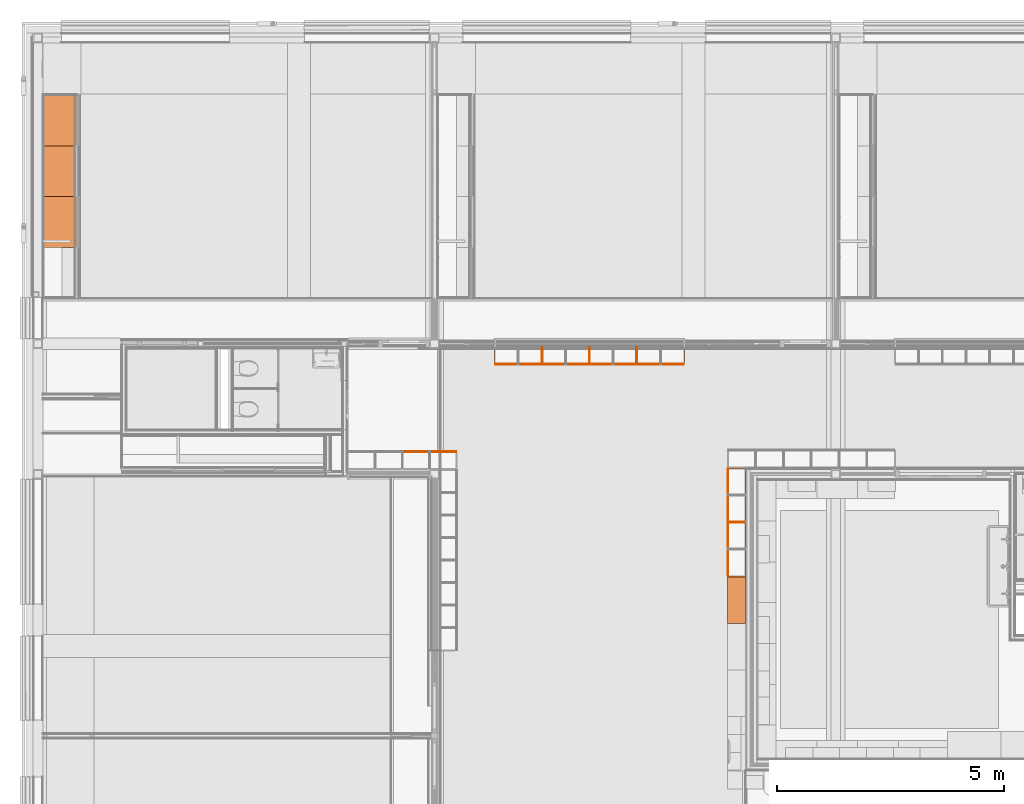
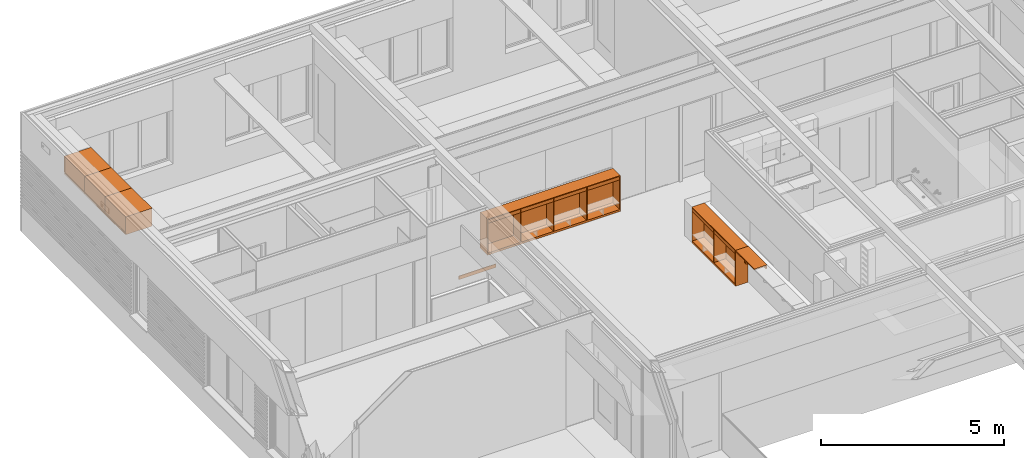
# One storey, part 133 of 137: 17 proxies.
"""IFC2X3 building model written with IfcOpenShell, lengths in millimetres."""

import ifcopenshell
import ifcopenshell.guid

model = None  # the IFC model being written
_history = None  # IfcOwnerHistory: only IFC2X3 demands one
_inside = {}  # id of a spatial element -> (the spatial element, [elements in it])
_under = {}  # id of a project, library or spatial element -> (it, [spatial elements below it])
_declared = {}  # id of a project -> (the project, [libraries it declares])
_typed = {}  # id of a type object -> (the type object, [elements of that type])
_made_of = {}  # id of a material, layer set ... -> (it, [elements and type objects made of it])


def new_model(schema):
    """Start an empty IFC model of exactly this schema.

    Asked for "IFC4X3", IfcOpenShell would pick the latest addendum, in which some entities
    have other attributes; the version numbers below select the first issue.
    IFC2X3 requires an IfcOwnerHistory on every rooted entity: one is made here for all.
    """
    global model, _history
    if schema == "IFC4X3":
        model = ifcopenshell.file(schema_version=(4, 3, 0, 0))
    else:
        model = ifcopenshell.file(schema=schema)
    _inside.clear()
    _under.clear()
    _declared.clear()
    _typed.clear()
    _made_of.clear()
    _history = None
    if model.schema == "IFC2X3":
        org = make("IfcOrganization", Name="unknown")
        user = make(
            "IfcPersonAndOrganization",
            ThePerson=make("IfcPerson", FamilyName="unknown"),
            TheOrganization=org,
        )
        app = make(
            "IfcApplication",
            ApplicationDeveloper=org,
            Version="unknown",
            ApplicationFullName="unknown",
            ApplicationIdentifier="unknown",
        )
        _history = make(
            "IfcOwnerHistory",
            OwningUser=user,
            OwningApplication=app,
            ChangeAction="ADDED",
            CreationDate=0,
        )
    return model


def make(cls, **values):
    """One entity of the class cls with the attributes given. An attribute that is None is left unset."""
    return model.create_entity(
        cls, **{name: value for name, value in values.items() if value is not None}
    )


def entity(cls, *values):
    """Any entity or typed value of the class cls, its attributes in the order of the schema. None: left unset."""
    e = model.create_entity(cls)
    for i, value in enumerate(values):
        if value is not None:
            e[i] = value
    return e


def rooted(cls, **values):
    """An entity with a GlobalId (a new one), such as an element, a storey or a relation."""
    return make(cls, GlobalId=ifcopenshell.guid.new(), OwnerHistory=_history, **values)


def si_unit(unit_type, name, prefix=None):
    """IfcSIUnit, for example si_unit("LENGTHUNIT", "METRE", prefix="MILLI")."""
    return make("IfcSIUnit", UnitType=unit_type, Prefix=prefix, Name=name)


def converted_unit(unit_type, name, factor, base, dimensions=None, offset=None):
    """IfcConversionBasedUnit, such as the inch: factor (a typed value) times the base unit."""
    return make(
        "IfcConversionBasedUnit"
        if offset is None
        else "IfcConversionBasedUnitWithOffset",
        ConversionOffset=offset,
        Dimensions=None
        if dimensions is None
        else entity("IfcDimensionalExponents", *dimensions),
        UnitType=unit_type,
        Name=name,
        ConversionFactor=make(
            "IfcMeasureWithUnit", ValueComponent=factor, UnitComponent=base
        ),
    )


def derived_unit(unit_type, elements):
    """IfcDerivedUnit: a product of units, each with its exponent."""
    return make(
        "IfcDerivedUnit",
        Elements=[
            make("IfcDerivedUnitElement", Unit=unit, Exponent=power)
            for unit, power in elements
        ],
        UnitType=unit_type,
    )


def money_unit(currency):
    """IfcMonetaryUnit."""
    return make("IfcMonetaryUnit", Currency=currency)


def assignment(units):
    """IfcUnitAssignment: the units of a project."""
    return None if units is None else make("IfcUnitAssignment", Units=units)


def point(xyz):
    """IfcCartesianPoint."""
    return None if xyz is None else make("IfcCartesianPoint", Coordinates=xyz)


def direction(xyz):
    """IfcDirection."""
    return None if xyz is None else make("IfcDirection", DirectionRatios=xyz)


def frame(location, z_axis=None, x_axis=None):
    """IfcAxis2Placement3D, a coordinate frame: its origin and axes. An axis left out is left unset."""
    return make(
        "IfcAxis2Placement3D",
        Location=point(location),
        Axis=direction(z_axis),
        RefDirection=direction(x_axis),
    )


def origin_with_axes():
    """The frame at (0, 0, 0) with the z axis (0, 0, 1) and the x axis (1, 0, 0) written out."""
    return frame((0.0, 0.0, 0.0), z_axis=(0.0, 0.0, 1.0), x_axis=(1.0, 0.0, 0.0))


def place(relative_to, where):
    """IfcLocalPlacement: puts the frame where relative to a parent placement (None: the world)."""
    return make(
        "IfcLocalPlacement", PlacementRelTo=relative_to, RelativePlacement=where
    )


def context(
    kind, dimensions, precision=None, world=None, true_north=None, identifier=None
):
    """IfcGeometricRepresentationContext, for example the 3D "Model" context."""
    return make(
        "IfcGeometricRepresentationContext",
        ContextIdentifier=identifier,
        ContextType=kind,
        CoordinateSpaceDimension=dimensions,
        Precision=precision,
        WorldCoordinateSystem=world,
        TrueNorth=true_north,
    )


def subcontext(parent, identifier, kind, view, scale=None):
    """IfcGeometricRepresentationSubContext, for example "Body" below "Model"."""
    return make(
        "IfcGeometricRepresentationSubContext",
        ContextIdentifier=identifier,
        ContextType=kind,
        ParentContext=parent,
        TargetScale=scale,
        TargetView=view,
    )


def project(units=None, contexts=None):
    """IfcProject with its units and contexts."""
    return rooted(
        "IfcProject",
        Name="project",
        RepresentationContexts=contexts,
        UnitsInContext=assignment(units),
    )


def spatial(cls, under=None, at=None, **own):
    """A site, building, storey or space (cls), placed at a placement, below another one or the project."""
    s = rooted(cls, ObjectPlacement=at, **own)
    if under is not None:
        _under.setdefault(under.id(), (under, []))[1].append(s)
    return s


def faces_of(points, faces, orient=None, outer=None):
    """IfcFace entities. A face is a list of loops; a loop is a list of indices into points, from 0.

    orient and outer hold one flag for each loop. By default every Orientation is true, the
    first loop of a face is its IfcFaceOuterBound and the others are IfcFaceBound.
    """
    made = []
    for i, loops in enumerate(faces):
        bounds = []
        for j, loop in enumerate(loops):
            is_outer = j == 0 if outer is None else outer[i][j]
            bounds.append(
                make(
                    "IfcFaceOuterBound" if is_outer else "IfcFaceBound",
                    Bound=make("IfcPolyLoop", Polygon=[points[k] for k in loop]),
                    Orientation=True if orient is None else orient[i][j],
                )
            )
        made.append(make("IfcFace", Bounds=bounds))
    return made


def faceted_brep(points, faces, orient=None, outer=None, voids=None):
    """IfcFacetedBrep: a solid bounded by flat faces; with voids (closed shells), ...WithVoids."""
    shared = [point(p) for p in points]
    hull = make("IfcClosedShell", CfsFaces=faces_of(shared, faces, orient, outer))
    if voids is None:
        return make("IfcFacetedBrep", Outer=hull)
    return make(
        "IfcFacetedBrepWithVoids",
        Outer=hull,
        Voids=[
            make(cls, CfsFaces=faces_of(shared, fs, o, b)) for cls, fs, o, b in voids
        ],
    )


def shape(context_of_items, identifier, shape_type, items):
    """IfcShapeRepresentation: the items that make up one representation, for example the "Body"."""
    return make(
        "IfcShapeRepresentation",
        ContextOfItems=context_of_items,
        RepresentationIdentifier=identifier,
        RepresentationType=shape_type,
        Items=items,
    )


def material(Name=None, Category=None):
    """IfcMaterial."""
    return make("IfcMaterial", Name=Name, Category=Category)


def made_of(thing, what):
    """Note that an element or type object is made of a material, layer set ...; save() writes the relation."""
    if what is not None:
        _made_of.setdefault(what.id(), (what, []))[1].append(thing)
    return thing


def type_object(cls, material=None, **own):
    """A type object (cls), such as IfcWallType, which elements share."""
    return made_of(rooted(cls, **own), material)


def element(
    cls,
    number,
    at=None,
    inside=None,
    cuts=None,
    type_object=None,
    material=None,
    context=None,
    identifier="Body",
    shape_type=None,
    held_by="IfcProductDefinitionShape",
    body=None,
    shapes=None,
    **own,
):
    """One element of the class cls, such as IfcWall. Its Tag is "e" and its number.

    at: its placement. inside: the storey or other place that contains it. cuts: it is an
    opening in that element (IfcRelVoidsElement). A single representation is given by context,
    identifier, shape_type and body (its items); several are given by shapes. held_by: the class
    of the entity that holds the representations. save() writes the other relations.
    """
    e = rooted(cls, Tag="e%d" % number, ObjectPlacement=at, **own)
    if body is not None:
        shapes = [shape(context, identifier, shape_type, body)]
    if shapes is not None:
        e.Representation = make(held_by, Representations=shapes)
    if inside is not None:
        _inside.setdefault(inside.id(), (inside, []))[1].append(e)
    if cuts is not None:
        rooted(
            "IfcRelVoidsElement", RelatingBuildingElement=cuts, RelatedOpeningElement=e
        )
    if type_object is not None:
        _typed.setdefault(type_object.id(), (type_object, []))[1].append(e)
    return made_of(e, material)


def aggregate(whole, parts):
    """IfcRelAggregates: a whole, such as a stair, and the parts it consists of."""
    return rooted("IfcRelAggregates", RelatingObject=whole, RelatedObjects=parts)


def save(model, path):
    """Write the relations noted so far, then the file.

    IfcRelAggregates (storeys below a building ...), IfcRelContainedInSpatialStructure (elements
    in a storey), IfcRelDefinesByType, IfcRelAssociatesMaterial and IfcRelDeclares: one each for
    every whole, place, type object, material and project.
    """
    for whole, parts in _under.values():
        aggregate(whole, parts)
    for where, things in _inside.values():
        rooted(
            "IfcRelContainedInSpatialStructure",
            RelatedElements=things,
            RelatingStructure=where,
        )
    for kind, things in _typed.values():
        rooted("IfcRelDefinesByType", RelatedObjects=things, RelatingType=kind)
    for what, things in _made_of.values():
        rooted("IfcRelAssociatesMaterial", RelatedObjects=things, RelatingMaterial=what)
    for by, libraries in _declared.values():
        rooted("IfcRelDeclares", RelatingContext=by, RelatedDefinitions=libraries)
    model.write(path)


model = new_model("IFC2X3")

# Units and contexts
model_context = context("Model", 3, precision=0.01, world=origin_with_axes(), true_north=direction((0.0, 1.0)))
body_context = subcontext(model_context, "Body", "Model", "MODEL_VIEW")
ifc_project = project(units=[si_unit("LENGTHUNIT", "METRE", prefix="MILLI"), si_unit("AREAUNIT", "SQUARE_METRE"), si_unit("VOLUMEUNIT", "CUBIC_METRE"), converted_unit("PLANEANGLEUNIT", "DEGREE", entity("IfcPlaneAngleMeasure", 0.0174532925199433), si_unit("PLANEANGLEUNIT", "RADIAN"), dimensions=[0, 0, 0, 0, 0, 0, 0]), money_unit("EUR"), converted_unit("TIMEUNIT", "Year", entity("IfcTimeMeasure", 31556926.0), si_unit("TIMEUNIT", "SECOND"), dimensions=[0, 0, 1, 0, 0, 0, 0]), si_unit("MASSUNIT", "GRAM", prefix="KILO"), si_unit("THERMODYNAMICTEMPERATUREUNIT", "DEGREE_CELSIUS"), si_unit("LUMINOUSINTENSITYUNIT", "LUMEN"), si_unit("ENERGYUNIT", "JOULE", prefix="MEGA"), derived_unit("THERMALCONDUCTANCEUNIT", [(si_unit("POWERUNIT", "WATT"), 1), (si_unit("LENGTHUNIT", "METRE"), -1), (si_unit("THERMODYNAMICTEMPERATUREUNIT", "KELVIN"), -1)]), derived_unit("SPECIFICHEATCAPACITYUNIT", [(si_unit("ENERGYUNIT", "JOULE"), 1), (si_unit("MASSUNIT", "GRAM", prefix="KILO"), -1), (si_unit("THERMODYNAMICTEMPERATUREUNIT", "KELVIN"), -1)]), derived_unit("MASSDENSITYUNIT", [(si_unit("MASSUNIT", "GRAM", prefix="KILO"), 1), (si_unit("VOLUMEUNIT", "CUBIC_METRE"), -1)])], contexts=[model_context])

# Site, building, storey
site_placement = place(None, origin_with_axes())
site = spatial("IfcSite", under=ifc_project, at=site_placement, Name="Site", CompositionType="ELEMENT")
building_placement = place(site_placement, origin_with_axes())
building = spatial("IfcBuilding", under=site, at=building_placement, Name="Naam gebouw", CompositionType="ELEMENT")
storey_placement = place(building_placement, frame((0.0, 0.0, 3960.0), z_axis=(0.0, 0.0, 1.0), x_axis=(1.0, 0.0, 0.0)))
storey = spatial("IfcBuildingStorey", under=building, at=storey_placement, Name="1e verdieping", CompositionType="ELEMENT", Elevation=3960.0)

# Proxies
ifc_material = material(Name="Hout AFW")
building_element_proxy_type_1 = type_object("IfcBuildingElementProxyType", Name="Hout AFW 18", PredefinedType="NOTDEFINED")
proxy_1_placement = place(storey_placement, frame((9330.000000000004, 19950.00381393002, 1062.0), z_axis=(0.0, 0.0, 1.0), x_axis=(-1.0, 0.0, 0.0)))
element("IfcBuildingElementProxy", 1, at=proxy_1_placement, inside=storey, type_object=building_element_proxy_type_1, material=ifc_material, Name="i HOUT_Wand-x", context=body_context, shape_type="Brep", body=[
    faceted_brep([(0.0, 18.00000000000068, 0.0), (1174.999984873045, 18.00000000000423, 0.0), (1174.999984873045, 0.0, 0.0), (0.0, 0.0, 0.0), (0.0, 18.00000000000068, 117.9999999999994), (1174.999984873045, 18.00000000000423, 117.9999999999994), (1174.999984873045, 0.0, 117.9999999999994), (0.0, 0.0, 117.9999999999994)], [[[0, 1, 2, 3]], [[4, 5, 1, 0]], [[2, 1, 5, 6]], [[3, 2, 6, 7]], [[4, 0, 3, 7]], [[7, 6, 5, 4]]]),
])
proxy_2_placement = place(storey_placement, frame((15314.99945671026, 19564.9998112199, 1062.0), z_axis=(0.0, 0.0, 1.0), x_axis=(0.0, -1.0, 0.0)))
element("IfcBuildingElementProxy", 2, at=proxy_2_placement, inside=storey, type_object=building_element_proxy_type_1, material=ifc_material, Name="i HOUT_Wand-x", context=body_context, shape_type="Brep", body=[
    faceted_brep([(0.0, 18.00000000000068, 0.0), (1169.999999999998, 18.00000000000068, 0.0), (1169.999999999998, 0.0, 0.0), (0.0, 0.0, 0.0), (0.0, 18.00000000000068, 117.9999999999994), (1169.999999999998, 18.00000000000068, 117.9999999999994), (1169.999999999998, 0.0, 117.9999999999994), (0.0, 0.0, 117.9999999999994)], [[[0, 1, 2, 3]], [[4, 5, 1, 0]], [[2, 1, 5, 6]], [[3, 2, 6, 7]], [[4, 0, 3, 7]], [[7, 6, 5, 4]]]),
])
proxy_3_placement = place(storey_placement, frame((15314.99945671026, 18374.9998112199, 1062.0), z_axis=(0.0, 0.0, 1.0), x_axis=(0.0, -1.0, 0.0)))
element("IfcBuildingElementProxy", 3, at=proxy_3_placement, inside=storey, type_object=building_element_proxy_type_1, material=ifc_material, Name="i HOUT_Wand-x", context=body_context, shape_type="Brep", body=[
    faceted_brep([(0.0, 18.00000000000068, 0.0), (1170.000000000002, 18.00000000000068, 0.0), (1170.000000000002, 0.0, 0.0), (0.0, 0.0, 0.0), (0.0, 18.00000000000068, 117.9999999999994), (1170.000000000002, 18.00000000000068, 117.9999999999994), (1170.000000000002, 0.0, 117.9999999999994), (0.0, 0.0, 117.9999999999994)], [[[0, 1, 2, 3]], [[4, 5, 1, 0]], [[2, 1, 5, 6]], [[3, 2, 6, 7]], [[4, 0, 3, 7]], [[7, 6, 5, 4]]]),
])
proxy_4_placement = place(storey_placement, frame((10190.00000000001, 21862.47621406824, 1062.0), z_axis=(0.0, 0.0, 1.0), x_axis=(1.0, 0.0, 0.0)))
element("IfcBuildingElementProxy", 4, at=proxy_4_placement, inside=storey, type_object=building_element_proxy_type_1, material=ifc_material, Name="i HOUT_Wand-x", context=body_context, shape_type="Brep", body=[
    faceted_brep([(0.0, 18.00000000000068, 0.0), (1024.995906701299, 18.00000000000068, 0.0), (1024.995906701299, 0.0, 0.0), (0.0, 0.0, 0.0), (0.0, 18.00000000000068, 117.9999999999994), (1024.995906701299, 18.00000000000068, 117.9999999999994), (1024.995906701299, 0.0, 117.9999999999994), (0.0, 0.0, 117.9999999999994)], [[[0, 1, 2, 3]], [[4, 5, 1, 0]], [[2, 1, 5, 6]], [[3, 2, 6, 7]], [[4, 0, 3, 7]], [[7, 6, 5, 4]]]),
])
proxy_5_placement = place(storey_placement, frame((13324.97953350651, 21862.47621406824, 1062.0), z_axis=(0.0, 0.0, 1.0), x_axis=(1.0, 0.0, 0.0)))
element("IfcBuildingElementProxy", 5, at=proxy_5_placement, inside=storey, type_object=building_element_proxy_type_1, material=ifc_material, Name="i HOUT_Wand-x", context=body_context, shape_type="Brep", body=[
    faceted_brep([(0.0, 18.00000000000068, 0.0), (1025.020466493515, 18.00000000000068, 0.0), (1025.020466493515, 0.0, 0.0), (0.0, 0.0, 0.0), (0.0, 18.00000000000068, 117.9999999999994), (1025.020466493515, 18.00000000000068, 117.9999999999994), (1025.020466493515, 0.0, 117.9999999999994), (0.0, 0.0, 117.9999999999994)], [[[0, 1, 2, 3]], [[4, 5, 1, 0]], [[2, 1, 5, 6]], [[3, 2, 6, 7]], [[4, 0, 3, 7]], [[7, 6, 5, 4]]]),
])
for number, where, z_axis, x_axis, name in (
    (6, (11234.99590670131, 21862.47621406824, 1062.0), (0.0, 0.0, 1.0), (1.0, 0.0, 0.0), "i HOUT_Wand-x"),
    (7, (12279.98772010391, 21862.47621406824, 1062.0), (0.0, 0.0, 1.0), (1.0, 0.0, 0.0), "i HOUT_Wand-x"),
):
    element("IfcBuildingElementProxy", number, at=place(storey_placement, frame(where, z_axis=z_axis, x_axis=x_axis)), inside=storey, type_object=building_element_proxy_type_1, material=ifc_material, Name=name, context=body_context, shape_type="Brep", body=[
        faceted_brep([(0.0, 18.00000000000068, 0.0), (1024.991813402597, 18.00000000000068, 0.0), (1024.991813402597, 0.0, 0.0), (0.0, 0.0, 0.0), (0.0, 18.00000000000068, 117.9999999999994), (1024.991813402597, 18.00000000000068, 117.9999999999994), (1024.991813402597, 0.0, 117.9999999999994), (0.0, 0.0, 117.9999999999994)], [[[0, 1, 2, 3]], [[4, 5, 1, 0]], [[2, 1, 5, 6]], [[3, 2, 6, 7]], [[4, 0, 3, 7]], [[7, 6, 5, 4]]]),
    ])
building_element_proxy_type_2 = type_object("IfcBuildingElementProxyType", Name="Onderkast recht 26", PredefinedType="NOTDEFINED")
proxy_6_placement = place(storey_placement, frame((14370.00000000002, 22262.47621406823, 0.0), z_axis=(0.0, 0.0, 1.0), x_axis=(1.0, 0.0, 0.0)))
element("IfcBuildingElementProxy", 8, at=proxy_6_placement, inside=storey, type_object=building_element_proxy_type_2, Name="_Leeg", context=body_context, shape_type="Brep", body=[
    faceted_brep([(-20.0, -399.9999999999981, 50.0), (-20.0, -399.9999999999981, 70.0), (-4180.00000000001, -399.9999999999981, 70.0), (-4180.00000000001, -399.9999999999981, 50.0), (-20.0, 0.0, 50.0), (-20.0, 0.0, 70.0), (-4180.00000000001, 0.0, 70.0), (-4180.00000000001, 0.0, 50.0)], [[[0, 1, 2, 3]], [[4, 5, 1, 0]], [[1, 5, 6, 2]], [[3, 2, 6, 7]], [[0, 3, 7, 4]], [[7, 6, 5, 4]]]),
    faceted_brep([(-20.0, -399.9999999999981, 1180.0), (-20.0, -399.9999999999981, 1200.0), (-4180.00000000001, -399.9999999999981, 1200.0), (-4180.00000000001, -399.9999999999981, 1180.0), (-20.0, 0.0, 1180.0), (-20.0, 0.0, 1200.0), (-4180.00000000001, 0.0, 1200.0), (-4180.00000000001, 0.0, 1180.0)], [[[0, 1, 2, 3]], [[4, 5, 1, 0]], [[1, 5, 6, 2]], [[3, 2, 6, 7]], [[0, 3, 7, 4]], [[7, 6, 5, 4]]]),
    faceted_brep([(0.0, 0.0, 50.0), (0.0, 0.0, 1200.0), (0.0, -399.9999999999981, 1200.0), (0.0, -399.9999999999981, 50.0), (-20.0, 0.0, 50.0), (-20.0, 0.0, 1200.0), (-20.0, -399.9999999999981, 1200.0), (-20.0, -399.9999999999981, 50.0)], [[[0, 1, 2, 3]], [[4, 5, 1, 0]], [[1, 5, 6, 2]], [[3, 2, 6, 7]], [[0, 3, 7, 4]], [[7, 6, 5, 4]]]),
    faceted_brep([(-4200.00000000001, -399.9999999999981, 50.0), (-4200.00000000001, -399.9999999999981, 1200.0), (-4200.00000000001, 0.0, 1200.0), (-4200.00000000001, 0.0, 50.0), (-4180.00000000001, -399.9999999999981, 50.0), (-4180.00000000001, -399.9999999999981, 1200.0), (-4180.00000000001, 0.0, 1200.0), (-4180.00000000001, 0.0, 50.0)], [[[0, 1, 2, 3]], [[4, 5, 1, 0]], [[1, 5, 6, 2]], [[3, 2, 6, 7]], [[0, 3, 7, 4]], [[7, 6, 5, 4]]]),
    faceted_brep([(-4180.00000000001, -10.0, 70.0), (-4180.00000000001, -10.0, 1180.0), (-19.99999999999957, -10.0, 1180.0), (-19.99999999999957, -10.0, 70.0), (-4180.00000000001, -20.0, 70.0), (-4180.00000000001, -20.0, 1180.0), (-19.99999999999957, -20.0, 1180.0), (-19.99999999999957, -20.0, 70.0)], [[[0, 1, 2, 3]], [[4, 5, 1, 0]], [[1, 5, 6, 2]], [[3, 2, 6, 7]], [[0, 3, 7, 4]], [[7, 6, 5, 4]]]),
    faceted_brep([(0.0, -399.9999999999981, 0.0), (0.0, -399.9999999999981, 50.0), (-4200.00000000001, -399.9999999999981, 50.0), (-4200.00000000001, -399.9999999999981, 0.0), (0.0, 0.0, 0.0), (0.0, 0.0, 50.0), (-4200.00000000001, 0.0, 50.0), (-4200.00000000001, 0.0, 0.0)], [[[0, 1, 2, 3]], [[4, 5, 1, 0]], [[1, 5, 6, 2]], [[3, 2, 6, 7]], [[0, 3, 7, 4]], [[7, 6, 5, 4]]]),
])
proxy_7_placement = place(storey_placement, frame((15714.99945671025, 19584.9998112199, 0.0), z_axis=(0.0, 0.0, 1.0), x_axis=(0.0, -1.0, 0.0)))
element("IfcBuildingElementProxy", 9, at=proxy_7_placement, inside=storey, type_object=building_element_proxy_type_2, Name="_Leeg", context=body_context, shape_type="Brep", body=[
    faceted_brep([(20.0, -399.999999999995, 50.0), (2380.0, -399.999999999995, 50.0), (2380.0, -399.999999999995, 70.0), (20.0, -399.999999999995, 70.0), (20.0, 0.0, 50.0), (2380.0, 0.0, 50.0), (2380.0, 0.0, 70.0), (20.0, 0.0, 70.0)], [[[0, 1, 2, 3]], [[0, 4, 5, 1]], [[1, 5, 6, 2]], [[3, 2, 6, 7]], [[4, 0, 3, 7]], [[5, 4, 7, 6]]]),
    faceted_brep([(20.0, -399.999999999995, 1180.0), (2380.0, -399.999999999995, 1180.0), (2380.0, -399.999999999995, 1200.0), (20.0, -399.999999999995, 1200.0), (20.0, 0.0, 1180.0), (2380.0, 0.0, 1180.0), (2380.0, 0.0, 1200.0), (20.0, 0.0, 1200.0)], [[[0, 1, 2, 3]], [[0, 4, 5, 1]], [[1, 5, 6, 2]], [[3, 2, 6, 7]], [[4, 0, 3, 7]], [[5, 4, 7, 6]]]),
    faceted_brep([(0.0, 0.0, 50.0), (0.0, -399.999999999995, 50.0), (0.0, -399.999999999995, 1200.0), (0.0, 0.0, 1200.0), (20.0, 0.0, 50.0), (20.0, -399.999999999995, 50.0), (20.0, -399.999999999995, 1200.0), (20.0, 0.0, 1200.0)], [[[0, 1, 2, 3]], [[0, 4, 5, 1]], [[1, 5, 6, 2]], [[3, 2, 6, 7]], [[4, 0, 3, 7]], [[5, 4, 7, 6]]]),
    faceted_brep([(2400.0, -399.999999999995, 50.0), (2400.0, 0.0, 50.0), (2400.0, 0.0, 1200.0), (2400.0, -399.999999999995, 1200.0), (2380.0, -399.999999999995, 50.0), (2380.0, 0.0, 50.0), (2380.0, 0.0, 1200.0), (2380.0, -399.999999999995, 1200.0)], [[[0, 1, 2, 3]], [[0, 4, 5, 1]], [[1, 5, 6, 2]], [[3, 2, 6, 7]], [[4, 0, 3, 7]], [[5, 4, 7, 6]]]),
    faceted_brep([(2380.0, -10.0, 70.0), (20.00000000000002, -10.0, 70.0), (20.00000000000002, -10.0, 1180.0), (2380.0, -10.0, 1180.0), (2380.0, -20.0, 70.0), (20.00000000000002, -20.0, 70.0), (20.00000000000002, -20.0, 1180.0), (2380.0, -20.0, 1180.0)], [[[0, 1, 2, 3]], [[0, 4, 5, 1]], [[1, 5, 6, 2]], [[3, 2, 6, 7]], [[4, 0, 3, 7]], [[5, 4, 7, 6]]]),
    faceted_brep([(0.0, -399.999999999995, 0.0), (2400.0, -399.999999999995, 0.0), (2400.0, -399.999999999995, 50.0), (0.0, -399.999999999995, 50.0), (0.0, 0.0, 0.0), (2400.0, 0.0, 0.0), (2400.0, 0.0, 50.0), (0.0, 0.0, 50.0)], [[[0, 1, 2, 3]], [[0, 4, 5, 1]], [[1, 5, 6, 2]], [[3, 2, 6, 7]], [[4, 0, 3, 7]], [[5, 4, 7, 6]]]),
])
proxy_8_placement = place(storey_placement, frame((214.0000000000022, 26687.99970566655, 2600.0), z_axis=(0.0, 0.0, 1.0), x_axis=(0.0, 1.0, 0.0)))
element("IfcBuildingElementProxy", 10, at=proxy_8_placement, inside=storey, type_object=building_element_proxy_type_2, Name="_Leeg", context=body_context, shape_type="Brep", body=[
    faceted_brep([(-1102.000141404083, -1.999999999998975, 17.99999999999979), (-18.00000000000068, -1.999999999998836, 17.99999999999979), (-18.00000000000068, 0.0, 17.99999999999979), (-1102.000141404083, 0.0, 17.99999999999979), (-18.00000000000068, -1.999999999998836, 0.0), (-1102.000141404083, -1.999999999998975, 0.0), (-18.00000000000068, 0.0, 0.0), (-1102.000141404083, 0.0, 0.0)], [[[0, 1, 2, 3]], [[4, 1, 0, 5]], [[1, 4, 6, 2]], [[6, 7, 3, 2]], [[5, 0, 3, 7]], [[4, 5, 7, 6]]]),
    faceted_brep([(-1102.000141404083, -17.99999999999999, 69.99999999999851), (-18.00000000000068, -18.00000000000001, 69.99999999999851), (-18.00000000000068, -18.00000000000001, 581.9999999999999), (-1102.000141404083, -17.99999999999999, 581.9999999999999), (-18.00000000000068, -9.000000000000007, 69.99999999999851), (-1102.000141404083, -8.99999999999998, 69.99999999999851), (-18.00000000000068, -9.000000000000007, 581.9999999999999), (-1102.000141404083, -8.99999999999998, 581.9999999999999)], [[[0, 1, 2, 3]], [[4, 1, 0, 5]], [[1, 4, 6, 2]], [[6, 7, 3, 2]], [[5, 0, 3, 7]], [[4, 5, 7, 6]]]),
    faceted_brep([(-1102.000141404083, -827.0000000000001, 581.9999999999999), (-18.00000000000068, -827.0000000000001, 581.9999999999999), (-18.00000000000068, -827.0000000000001, 599.9999999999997), (-1102.000141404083, -827.0000000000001, 599.9999999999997), (-18.00000000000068, 0.0, 581.9999999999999), (-1102.000141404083, 0.0, 581.9999999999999), (-18.00000000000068, 0.0, 599.9999999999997), (-1102.000141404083, 0.0, 599.9999999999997)], [[[0, 1, 2, 3]], [[4, 1, 0, 5]], [[1, 4, 6, 2]], [[3, 2, 6, 7]], [[5, 0, 3, 7]], [[4, 5, 7, 6]]]),
    faceted_brep([(0.0, -1.999999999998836, 69.99999999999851), (0.0, -1.999999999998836, 0.0), (0.0, 0.0, 0.0), (0.0, 0.0, 599.9999999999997), (0.0, -827.0000000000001, 599.9999999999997), (0.0, -827.0000000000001, 0.0), (0.0, -21.99999999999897, 0.0), (0.0, -21.99999999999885, 69.99999999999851), (-18.00000000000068, -1.999999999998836, 69.99999999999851), (-18.00000000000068, -1.999999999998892, 0.0), (-18.00000000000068, 0.0, 0.0), (-18.00000000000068, 0.0, 599.9999999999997), (-18.00000000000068, -827.0000000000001, 599.9999999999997), (-18.00000000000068, -827.0000000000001, 0.0), (-18.00000000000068, -21.99999999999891, 0.0), (-18.00000000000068, -21.99999999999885, 69.99999999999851)], [[[0, 1, 2, 3, 4, 5, 6, 7]], [[1, 0, 8, 9]], [[1, 9, 10, 2]], [[2, 10, 11, 3]], [[4, 3, 11, 12]], [[13, 5, 4, 12]], [[14, 6, 5, 13]], [[7, 6, 14, 15]], [[0, 7, 15, 8]], [[15, 14, 13, 12, 11, 10, 9, 8]]]),
    faceted_brep([(-1102.000141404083, -1.999999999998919, 69.99999999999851), (-1102.000141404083, -1.999999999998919, 0.0), (-1102.000141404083, 0.0, 0.0), (-1102.000141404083, 0.0, 599.9999999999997), (-1102.000141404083, -827.0000000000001, 599.9999999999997), (-1102.000141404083, -827.0000000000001, 0.0), (-1102.000141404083, -21.99999999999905, 0.0), (-1102.000141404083, -21.99999999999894, 69.99999999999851), (-1120.000141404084, -1.999999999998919, 69.99999999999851), (-1120.000141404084, -1.999999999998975, 0.0), (-1120.000141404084, 0.0, 0.0), (-1120.000141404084, 0.0, 599.9999999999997), (-1120.000141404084, -827.0000000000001, 599.9999999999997), (-1120.000141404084, -827.0000000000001, 0.0), (-1120.000141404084, -21.9999999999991, 0.0), (-1120.000141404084, -21.99999999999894, 69.99999999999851)], [[[0, 1, 2, 3, 4, 5, 6, 7]], [[1, 0, 8, 9]], [[1, 9, 10, 2]], [[2, 10, 11, 3]], [[11, 12, 4, 3]], [[13, 5, 4, 12]], [[14, 6, 5, 13]], [[7, 6, 14, 15]], [[0, 7, 15, 8]], [[15, 14, 13, 12, 11, 10, 9, 8]]]),
    faceted_brep([(-18.00000000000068, -21.99999999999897, 0.0), (-18.00000000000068, -21.99999999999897, 17.99999999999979), (-18.00000000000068, -827.0000000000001, 17.99999999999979), (-18.00000000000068, -827.0000000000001, 0.0), (-1102.000141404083, -21.9999999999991, 17.99999999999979), (-1102.000141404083, -21.9999999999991, 0.0), (-1102.000141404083, -827.0000000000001, 17.99999999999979), (-1102.000141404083, -827.0000000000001, 0.0)], [[[0, 1, 2, 3]], [[4, 1, 0, 5]], [[1, 4, 6, 2]], [[7, 3, 2, 6]], [[5, 0, 3, 7]], [[4, 5, 7, 6]]]),
    faceted_brep([(-1.000000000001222, -827.0000000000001, 1.000000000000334), (-1.000000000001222, -845.0000000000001, 1.000000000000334), (-1119.000141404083, -844.9999999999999, 1.000000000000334), (-1119.000141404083, -827.0000000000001, 1.000000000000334), (-1.000000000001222, -827.0000000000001, 599.0000000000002), (-1.000000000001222, -845.0000000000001, 599.0000000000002), (-1119.000141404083, -844.9999999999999, 599.0000000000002), (-1119.000141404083, -827.0000000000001, 599.0000000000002)], [[[0, 1, 2, 3]], [[4, 5, 1, 0]], [[1, 5, 6, 2]], [[3, 2, 6, 7]], [[0, 3, 7, 4]], [[7, 6, 5, 4]]]),
])
proxy_9_placement = place(storey_placement, frame((214.0000000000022, 25567.99956426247, 2600.0), z_axis=(0.0, 0.0, 1.0), x_axis=(0.0, 1.0, 0.0)))
element("IfcBuildingElementProxy", 11, at=proxy_9_placement, inside=storey, type_object=building_element_proxy_type_2, Name="_Leeg", context=body_context, shape_type="Brep", body=[
    faceted_brep([(-1102.000141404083, -1.999999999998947, 17.99999999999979), (-18.00000000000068, -1.999999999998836, 17.99999999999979), (-18.00000000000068, 0.0, 17.99999999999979), (-1102.000141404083, 0.0, 17.99999999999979), (-18.00000000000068, -1.999999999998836, 0.0), (-1102.000141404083, -1.999999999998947, 0.0), (-18.00000000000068, 0.0, 0.0), (-1102.000141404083, 0.0, 0.0)], [[[0, 1, 2, 3]], [[4, 1, 0, 5]], [[1, 4, 6, 2]], [[6, 7, 3, 2]], [[5, 0, 3, 7]], [[4, 5, 7, 6]]]),
    faceted_brep([(-1102.000141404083, -17.99999999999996, 69.99999999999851), (-18.00000000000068, -18.00000000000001, 69.99999999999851), (-18.00000000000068, -18.00000000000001, 581.9999999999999), (-1102.000141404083, -17.99999999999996, 581.9999999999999), (-18.00000000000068, -9.000000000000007, 69.99999999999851), (-1102.000141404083, -8.999999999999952, 69.99999999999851), (-18.00000000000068, -9.000000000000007, 581.9999999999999), (-1102.000141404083, -8.999999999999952, 581.9999999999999)], [[[0, 1, 2, 3]], [[4, 1, 0, 5]], [[1, 4, 6, 2]], [[6, 7, 3, 2]], [[5, 0, 3, 7]], [[4, 5, 7, 6]]]),
    faceted_brep([(-1102.000141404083, -827.0, 581.9999999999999), (-18.00000000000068, -827.0, 581.9999999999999), (-18.00000000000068, -827.0, 599.9999999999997), (-1102.000141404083, -827.0, 599.9999999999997), (-18.00000000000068, 0.0, 581.9999999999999), (-1102.000141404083, 0.0, 581.9999999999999), (-18.00000000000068, 0.0, 599.9999999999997), (-1102.000141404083, 0.0, 599.9999999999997)], [[[0, 1, 2, 3]], [[4, 1, 0, 5]], [[1, 4, 6, 2]], [[3, 2, 6, 7]], [[5, 0, 3, 7]], [[4, 5, 7, 6]]]),
    faceted_brep([(0.0, -1.999999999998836, 69.99999999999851), (0.0, -1.999999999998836, 0.0), (0.0, 0.0, 0.0), (0.0, 0.0, 599.9999999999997), (0.0, -827.0, 599.9999999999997), (0.0, -827.0, 0.0), (0.0, -21.99999999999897, 0.0), (0.0, -21.99999999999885, 69.99999999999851), (-18.00000000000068, -1.999999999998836, 69.99999999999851), (-18.00000000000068, -1.999999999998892, 0.0), (-18.00000000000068, 0.0, 0.0), (-18.00000000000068, 0.0, 599.9999999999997), (-18.00000000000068, -827.0, 599.9999999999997), (-18.00000000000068, -827.0, 0.0), (-18.00000000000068, -21.99999999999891, 0.0), (-18.00000000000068, -21.99999999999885, 69.99999999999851)], [[[0, 1, 2, 3, 4, 5, 6, 7]], [[1, 0, 8, 9]], [[1, 9, 10, 2]], [[2, 10, 11, 3]], [[4, 3, 11, 12]], [[13, 5, 4, 12]], [[14, 6, 5, 13]], [[7, 6, 14, 15]], [[0, 7, 15, 8]], [[15, 14, 13, 12, 11, 10, 9, 8]]]),
    faceted_brep([(-1102.000141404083, -1.999999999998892, 69.99999999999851), (-1102.000141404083, -1.999999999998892, 0.0), (-1102.000141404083, 0.0, 0.0), (-1102.000141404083, 0.0, 599.9999999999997), (-1102.000141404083, -827.0, 599.9999999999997), (-1102.000141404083, -827.0, 0.0), (-1102.000141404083, -21.99999999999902, 0.0), (-1102.000141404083, -21.99999999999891, 69.99999999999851), (-1120.000141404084, -1.999999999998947, 69.99999999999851), (-1120.000141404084, -1.999999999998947, 0.0), (-1120.000141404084, 0.0, 0.0), (-1120.000141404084, 0.0, 599.9999999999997), (-1120.000141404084, -827.0, 599.9999999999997), (-1120.000141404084, -827.0, 0.0), (-1120.000141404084, -21.99999999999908, 0.0), (-1120.000141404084, -21.99999999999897, 69.99999999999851)], [[[0, 1, 2, 3, 4, 5, 6, 7]], [[1, 0, 8, 9]], [[1, 9, 10, 2]], [[2, 10, 11, 3]], [[11, 12, 4, 3]], [[13, 5, 4, 12]], [[14, 6, 5, 13]], [[7, 6, 14, 15]], [[0, 7, 15, 8]], [[15, 14, 13, 12, 11, 10, 9, 8]]]),
    faceted_brep([(-18.00000000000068, -21.99999999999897, 0.0), (-18.00000000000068, -21.99999999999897, 17.99999999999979), (-18.00000000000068, -827.0, 17.99999999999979), (-18.00000000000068, -827.0, 0.0), (-1102.000141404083, -21.99999999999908, 17.99999999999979), (-1102.000141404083, -21.99999999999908, 0.0), (-1102.000141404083, -827.0, 17.99999999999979), (-1102.000141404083, -827.0, 0.0)], [[[0, 1, 2, 3]], [[4, 1, 0, 5]], [[1, 4, 6, 2]], [[7, 3, 2, 6]], [[5, 0, 3, 7]], [[4, 5, 7, 6]]]),
    faceted_brep([(-1.000000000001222, -827.0, 1.000000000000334), (-1.000000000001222, -845.0, 1.000000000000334), (-1119.000141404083, -844.9999999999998, 1.000000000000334), (-1119.000141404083, -827.0, 1.000000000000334), (-1.000000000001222, -827.0, 599.0000000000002), (-1.000000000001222, -845.0, 599.0000000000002), (-1119.000141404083, -844.9999999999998, 599.0000000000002), (-1119.000141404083, -827.0, 599.0000000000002)], [[[0, 1, 2, 3]], [[4, 5, 1, 0]], [[1, 5, 6, 2]], [[3, 2, 6, 7]], [[0, 3, 7, 4]], [[7, 6, 5, 4]]]),
])
proxy_10_placement = place(storey_placement, frame((214.0000000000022, 27807.99984707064, 2600.0), z_axis=(0.0, 0.0, 1.0), x_axis=(0.0, 1.0, 0.0)))
element("IfcBuildingElementProxy", 12, at=proxy_10_placement, inside=storey, type_object=building_element_proxy_type_2, Name="_Leeg", context=body_context, shape_type="Brep", body=[
    faceted_brep([(-1102.000141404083, -1.999999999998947, 17.99999999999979), (-18.00000000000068, -1.999999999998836, 17.99999999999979), (-18.00000000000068, 0.0, 17.99999999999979), (-1102.000141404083, 0.0, 17.99999999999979), (-18.00000000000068, -1.999999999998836, 0.0), (-1102.000141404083, -1.999999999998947, 0.0), (-18.00000000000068, 0.0, 0.0), (-1102.000141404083, 0.0, 0.0)], [[[0, 1, 2, 3]], [[4, 1, 0, 5]], [[1, 4, 6, 2]], [[6, 7, 3, 2]], [[5, 0, 3, 7]], [[4, 5, 7, 6]]]),
    faceted_brep([(-1102.000141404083, -17.99999999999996, 69.99999999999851), (-18.00000000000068, -18.00000000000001, 69.99999999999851), (-18.00000000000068, -18.00000000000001, 581.9999999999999), (-1102.000141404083, -17.99999999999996, 581.9999999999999), (-18.00000000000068, -9.000000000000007, 69.99999999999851), (-1102.000141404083, -8.999999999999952, 69.99999999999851), (-18.00000000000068, -9.000000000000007, 581.9999999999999), (-1102.000141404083, -8.999999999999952, 581.9999999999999)], [[[0, 1, 2, 3]], [[4, 1, 0, 5]], [[1, 4, 6, 2]], [[6, 7, 3, 2]], [[5, 0, 3, 7]], [[4, 5, 7, 6]]]),
    faceted_brep([(-1102.000141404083, -827.0000000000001, 581.9999999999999), (-18.00000000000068, -826.9999999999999, 581.9999999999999), (-18.00000000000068, -826.9999999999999, 599.9999999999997), (-1102.000141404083, -827.0000000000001, 599.9999999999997), (-18.00000000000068, 0.0, 581.9999999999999), (-1102.000141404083, 0.0, 581.9999999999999), (-18.00000000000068, 0.0, 599.9999999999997), (-1102.000141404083, 0.0, 599.9999999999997)], [[[0, 1, 2, 3]], [[4, 1, 0, 5]], [[1, 4, 6, 2]], [[3, 2, 6, 7]], [[5, 0, 3, 7]], [[4, 5, 7, 6]]]),
    faceted_brep([(0.0, -1.999999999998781, 69.99999999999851), (0.0, -1.999999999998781, 0.0), (0.0, 0.0, 0.0), (0.0, 0.0, 599.9999999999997), (0.0, -826.9999999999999, 599.9999999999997), (0.0, -826.9999999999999, 0.0), (0.0, -21.9999999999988, 0.0), (0.0, -21.9999999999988, 69.99999999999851), (-18.00000000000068, -1.999999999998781, 69.99999999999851), (-18.00000000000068, -1.999999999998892, 0.0), (-18.00000000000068, 0.0, 0.0), (-18.00000000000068, 0.0, 599.9999999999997), (-18.00000000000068, -826.9999999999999, 599.9999999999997), (-18.00000000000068, -826.9999999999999, 0.0), (-18.00000000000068, -21.99999999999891, 0.0), (-18.00000000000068, -21.9999999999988, 69.99999999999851)], [[[0, 1, 2, 3, 4, 5, 6, 7]], [[1, 0, 8, 9]], [[1, 9, 10, 2]], [[2, 10, 11, 3]], [[4, 3, 11, 12]], [[13, 5, 4, 12]], [[14, 6, 5, 13]], [[7, 6, 14, 15]], [[0, 7, 15, 8]], [[15, 14, 13, 12, 11, 10, 9, 8]]]),
    faceted_brep([(-1102.000141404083, -1.999999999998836, 69.99999999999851), (-1102.000141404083, -1.999999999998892, 0.0), (-1102.000141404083, 0.0, 0.0), (-1102.000141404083, 0.0, 599.9999999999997), (-1102.000141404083, -827.0000000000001, 599.9999999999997), (-1102.000141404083, -827.0000000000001, 0.0), (-1102.000141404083, -21.99999999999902, 0.0), (-1102.000141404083, -21.99999999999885, 69.99999999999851), (-1120.000141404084, -1.999999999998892, 69.99999999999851), (-1120.000141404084, -1.999999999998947, 0.0), (-1120.000141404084, 0.0, 0.0), (-1120.000141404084, 0.0, 599.9999999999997), (-1120.000141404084, -827.0000000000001, 599.9999999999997), (-1120.000141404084, -827.0000000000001, 0.0), (-1120.000141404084, -21.99999999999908, 0.0), (-1120.000141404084, -21.99999999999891, 69.99999999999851)], [[[0, 1, 2, 3, 4, 5, 6, 7]], [[1, 0, 8, 9]], [[1, 9, 10, 2]], [[2, 10, 11, 3]], [[11, 12, 4, 3]], [[13, 5, 4, 12]], [[14, 6, 5, 13]], [[7, 6, 14, 15]], [[0, 7, 15, 8]], [[15, 14, 13, 12, 11, 10, 9, 8]]]),
    faceted_brep([(-18.00000000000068, -21.99999999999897, 0.0), (-18.00000000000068, -21.99999999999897, 17.99999999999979), (-18.00000000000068, -826.9999999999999, 17.99999999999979), (-18.00000000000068, -826.9999999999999, 0.0), (-1102.000141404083, -21.99999999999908, 17.99999999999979), (-1102.000141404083, -21.99999999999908, 0.0), (-1102.000141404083, -827.0000000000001, 17.99999999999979), (-1102.000141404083, -827.0000000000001, 0.0)], [[[0, 1, 2, 3]], [[4, 1, 0, 5]], [[1, 4, 6, 2]], [[7, 3, 2, 6]], [[5, 0, 3, 7]], [[4, 5, 7, 6]]]),
    faceted_brep([(-1.000000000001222, -826.9999999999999, 1.000000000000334), (-1.000000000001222, -844.9999999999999, 1.000000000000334), (-1119.000141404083, -844.9999999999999, 1.000000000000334), (-1119.000141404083, -827.0000000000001, 1.000000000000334), (-1.000000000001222, -826.9999999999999, 599.0000000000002), (-1.000000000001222, -844.9999999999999, 599.0000000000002), (-1119.000141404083, -844.9999999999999, 599.0000000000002), (-1119.000141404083, -827.0000000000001, 599.0000000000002)], [[[0, 1, 2, 3]], [[4, 5, 1, 0]], [[1, 5, 6, 2]], [[3, 2, 6, 7]], [[0, 3, 7, 4]], [[7, 6, 5, 4]]]),
])
building_element_proxy_type_3 = type_object("IfcBuildingElementProxyType", Name="Hout AFW 20", PredefinedType="NOTDEFINED")
proxy_11_placement = place(storey_placement, frame((15695.03420817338, 18384.9998112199, 70.00000000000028), z_axis=(0.0, 0.0, 1.0), x_axis=(-1.0, 0.0, 0.0)))
element("IfcBuildingElementProxy", 13, at=proxy_11_placement, inside=storey, type_object=building_element_proxy_type_3, material=ifc_material, Name="i HOUT_Wand-x", context=body_context, shape_type="Brep", body=[
    faceted_brep([(0.0, 10.00000000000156, 0.0), (380.006513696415, 10.00000000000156, 0.0), (380.006513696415, -10.00000000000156, 0.0), (0.0, -10.00000000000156, 0.0), (0.0, 10.00000000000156, 1110.0), (380.006513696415, 10.00000000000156, 1110.0), (380.006513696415, -10.00000000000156, 1110.0), (0.0, -10.00000000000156, 1110.0)], [[[0, 1, 2, 3]], [[4, 5, 1, 0]], [[2, 1, 5, 6]], [[3, 2, 6, 7]], [[4, 0, 3, 7]], [[7, 6, 5, 4]]]),
])
for number, where, z_axis, x_axis, name in (
    (14, (12259.98772010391, 22242.56744106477, 70.00000000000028), (0.0, 0.0, 1.0), (0.0, -1.0, 0.0), "i HOUT_Wand-x"),
    (15, (11214.99590670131, 22242.51096553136, 70.00000000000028), (0.0, 0.0, 1.0), (0.0, -1.0, 0.0), "i HOUT_Wand-x"),
    (16, (13304.97953350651, 22242.62391659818, 70.00000000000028), (0.0, 0.0, 1.0), (0.0, -1.0, 0.0), "i HOUT_Wand-x"),
):
    element("IfcBuildingElementProxy", number, at=place(storey_placement, frame(where, z_axis=z_axis, x_axis=x_axis)), inside=storey, type_object=building_element_proxy_type_3, material=ifc_material, Name=name, context=body_context, shape_type="Brep", body=[
        faceted_brep([(0.0, 19.99999999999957, 0.0), (380.006513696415, 19.99999999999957, 0.0), (380.006513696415, 0.0, 0.0), (0.0, 0.0, 0.0), (0.0, 19.99999999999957, 1110.0), (380.006513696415, 19.99999999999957, 1110.0), (380.006513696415, 0.0, 1110.0), (0.0, 0.0, 1110.0)], [[[0, 1, 2, 3]], [[4, 5, 1, 0]], [[2, 1, 5, 6]], [[3, 2, 6, 7]], [[4, 0, 3, 7]], [[7, 6, 5, 4]]]),
    ])
building_element_proxy_type_4 = type_object("IfcBuildingElementProxyType", Name="Klaptafel wand 26", PredefinedType="NOTDEFINED")
proxy_12_placement = place(storey_placement, frame((15314.99945671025, 16155.00727895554, 459.9999999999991), z_axis=(0.0, 0.0, 1.0), x_axis=(0.0, -1.0, 0.0)))
element("IfcBuildingElementProxy", 17, at=proxy_12_placement, inside=storey, type_object=building_element_proxy_type_4, Name="_Leeg", context=body_context, shape_type="Brep", body=[
    faceted_brep([(-534.9962661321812, 0.0, 620.0), (-534.9962661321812, 360.0000000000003, 620.0), (-494.9962661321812, 360.0000000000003, 620.0), (-494.9962661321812, 0.0, 620.0), (-534.9962661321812, 0.0, 700.0), (-534.9962661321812, 360.0000000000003, 700.0), (-494.9962661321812, 360.0000000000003, 700.0), (-494.9962661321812, 0.0, 700.0)], [[[0, 1, 2, 3]], [[0, 4, 5, 1]], [[1, 5, 6, 2]], [[2, 6, 7, 3]], [[3, 7, 4, 0]], [[7, 6, 5, 4]]]),
    faceted_brep([(-534.9962661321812, 280.0000000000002, 419.9999999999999), (-534.9962661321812, 360.0000000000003, 419.9999999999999), (-494.9962661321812, 360.0000000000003, 419.9999999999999), (-494.9962661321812, 280.0000000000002, 419.9999999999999), (-534.9962661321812, 280.0000000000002, 620.0), (-534.9962661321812, 360.0000000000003, 620.0), (-494.9962661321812, 360.0000000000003, 620.0), (-494.9962661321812, 280.0000000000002, 620.0)], [[[0, 1, 2, 3]], [[0, 4, 5, 1]], [[1, 5, 6, 2]], [[2, 6, 7, 3]], [[3, 7, 4, 0]], [[7, 6, 5, 4]]]),
    faceted_brep([(-494.9962661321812, 0.0, 620.0), (-534.9962661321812, 0.0, 620.0), (-534.9962661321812, 280.0000000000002, 464.4444444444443), (-494.9962661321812, 280.0000000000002, 464.4444444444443), (-494.9962661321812, 164.730082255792, 620.0), (-534.9962661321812, 164.730082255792, 620.0), (-534.9962661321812, 280.0000000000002, 555.9611568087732), (-494.9962661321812, 280.0000000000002, 555.9611568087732)], [[[0, 1, 2, 3]], [[4, 5, 1, 0]], [[1, 5, 6, 2]], [[3, 2, 6, 7]], [[0, 3, 7, 4]], [[7, 6, 5, 4]]]),
    faceted_brep([(-1029.992532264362, 0.0, 700.0), (-1029.992532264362, 320.0000000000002, 700.0), (0.0, 320.0000000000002, 700.0), (0.0, 0.0, 700.0), (-1029.992532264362, 0.0, 740.0), (-1029.992532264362, 320.0000000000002, 740.0), (0.0, 320.0000000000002, 740.0), (0.0, 0.0, 740.0)], [[[0, 1, 2, 3]], [[0, 4, 5, 1]], [[1, 5, 6, 2]], [[2, 6, 7, 3]], [[3, 7, 4, 0]], [[7, 6, 5, 4]]]),
    faceted_brep([(-1029.992532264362, 320.0000000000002, 700.0), (-1029.992532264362, 400.0000000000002, 700.0), (0.0, 400.0000000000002, 700.0), (0.0, 320.0000000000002, 700.0), (-1029.992532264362, 320.0000000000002, 740.0), (-1029.992532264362, 400.0000000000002, 740.0), (0.0, 400.0000000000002, 740.0), (0.0, 320.0000000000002, 740.0)], [[[0, 1, 2, 3]], [[0, 4, 5, 1]], [[1, 5, 6, 2]], [[2, 6, 7, 3]], [[3, 7, 4, 0]], [[7, 6, 5, 4]]]),
    faceted_brep([(-1029.992532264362, 360.0000000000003, 620.0), (-1029.992532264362, 400.0000000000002, 620.0), (0.0, 400.0000000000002, 620.0), (0.0, 360.0000000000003, 620.0), (-1029.992532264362, 360.0000000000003, 700.0), (-1029.992532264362, 400.0000000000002, 700.0), (0.0, 400.0000000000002, 700.0), (0.0, 360.0000000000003, 700.0)], [[[0, 1, 2, 3]], [[0, 4, 5, 1]], [[1, 5, 6, 2]], [[2, 6, 7, 3]], [[3, 7, 4, 0]], [[7, 6, 5, 4]]]),
    faceted_brep([(-554.9962661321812, 360.0000000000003, 419.9999999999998), (-554.9962661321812, 400.0000000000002, 419.9999999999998), (-474.9962661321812, 400.0000000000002, 419.9999999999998), (-474.9962661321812, 360.0000000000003, 419.9999999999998), (-554.9962661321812, 360.0000000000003, 619.9999999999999), (-554.9962661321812, 400.0000000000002, 619.9999999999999), (-474.9962661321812, 400.0000000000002, 619.9999999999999), (-474.9962661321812, 360.0000000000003, 619.9999999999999)], [[[0, 1, 2, 3]], [[0, 4, 5, 1]], [[1, 5, 6, 2]], [[2, 6, 7, 3]], [[3, 7, 4, 0]], [[7, 6, 5, 4]]]),
])

save(model, "model.ifc")
